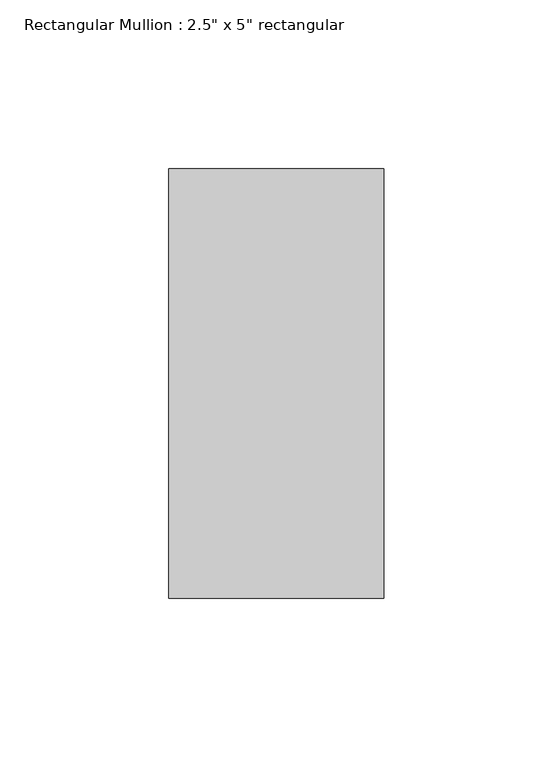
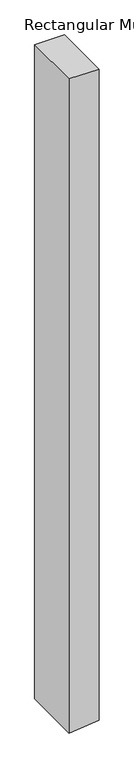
"""IFC4 building model written with IfcOpenShell, lengths in millimetres: member geometry."""

from ifc_helpers import new_model, si_unit, frame, origin, place, context, project, spatial, polyline, outline, extrude, source, transform, mapped, element, save


def member_bb259371(model_context):
    return source(origin(), model_context, "Body", "SweptSolid", [
        extrude(outline(polyline([(0.0, 31.75), (0.0, -31.75), (-1473.9258329, -31.75), (-1471.1832661, -6.9912306), (-1466.8918406, 31.75), (0.0, 31.75)])), frame((0.0, -63.5, 0.0), z_axis=(0.0, 1.0, 0.0), x_axis=(0.0, 0.0, 1.0)), (0.0, 0.0, 1.0), 127.0),
    ])


if __name__ == "__main__":
    model = new_model("IFC4")
    model_context = context("Model", 3, world=origin())
    ifc_project = project(units=[si_unit("LENGTHUNIT", "METRE", prefix="MILLI")], contexts=[model_context])
    site = spatial("IfcSite", under=ifc_project)
    building = spatial("IfcBuilding", under=site)
    placement = place(None, origin())
    member_shape = member_bb259371(model_context)
    element("IfcMember", 1, ObjectType="Rectangular Mullion : 2.5\" x 5\" rectangular", at=placement, inside=building, context=model_context, shape_type="MappedRepresentation", body=[
        mapped(member_shape, transform((0.0, 0.0, 0.0), x_axis=(1.0, 0.0, 0.0), y_axis=(0.0, 1.0, 0.0), z_axis=(0.0, 0.0, 1.0))),
    ])
    save(model, "model.ifc")
